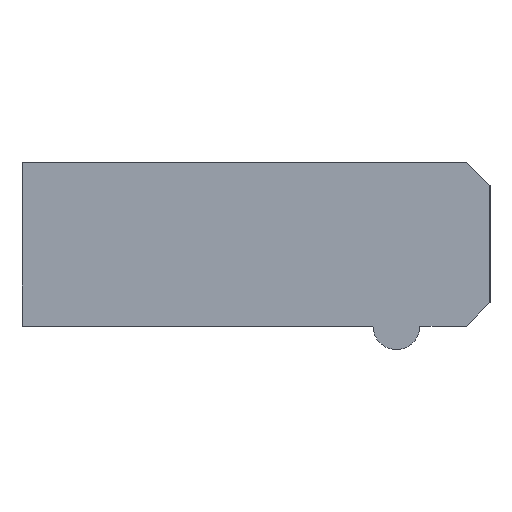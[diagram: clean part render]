
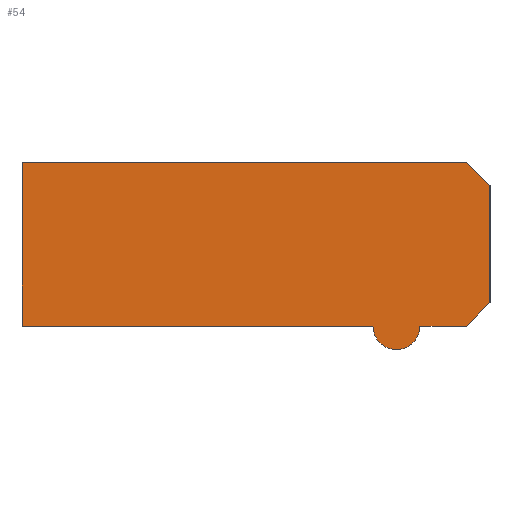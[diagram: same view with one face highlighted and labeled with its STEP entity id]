
A CAD part, left-side view. The second image highlights one B-rep face of the part: STEP entity #54.
In plain terms, the highlighted planar face has unit normal (-1, 0, 0).
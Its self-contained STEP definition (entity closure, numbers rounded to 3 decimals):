
#54 = ADVANCED_FACE( '', ( #108 ), #109, .F. );
#108 = FACE_OUTER_BOUND( '', #161, .T. );
#109 = PLANE( '', #162 );
#161 = EDGE_LOOP( '', ( #242, #243, #244, #245, #246, #247, #248, #249 ) );
#162 = AXIS2_PLACEMENT_3D( '', #250, #251, #252 );
#242 = ORIENTED_EDGE( '', *, *, #322, .F. );
#243 = ORIENTED_EDGE( '', *, *, #326, .F. );
#244 = ORIENTED_EDGE( '', *, *, #318, .F. );
#245 = ORIENTED_EDGE( '', *, *, #314, .F. );
#246 = ORIENTED_EDGE( '', *, *, #297, .F. );
#247 = ORIENTED_EDGE( '', *, *, #302, .F. );
#248 = ORIENTED_EDGE( '', *, *, #327, .F. );
#249 = ORIENTED_EDGE( '', *, *, #309, .F. );
#250 = CARTESIAN_POINT( '', ( -6., -16., -3.5 ) );
#251 = DIRECTION( '', ( 1., 0., 0. ) );
#252 = DIRECTION( '', ( 0., 0., -1. ) );
#297 = EDGE_CURVE( '', #340, #341, #342, .T. );
#302 = EDGE_CURVE( '', #349, #340, #350, .T. );
#309 = EDGE_CURVE( '', #360, #361, #362, .T. );
#314 = EDGE_CURVE( '', #341, #369, #370, .T. );
#318 = EDGE_CURVE( '', #369, #375, #376, .T. );
#322 = EDGE_CURVE( '', #381, #360, #382, .T. );
#326 = EDGE_CURVE( '', #375, #381, #387, .T. );
#327 = EDGE_CURVE( '', #361, #349, #388, .T. );
#340 = VERTEX_POINT( '', #402 );
#341 = VERTEX_POINT( '', #403 );
#342 = LINE( '', #404, #405 );
#349 = VERTEX_POINT( '', #415 );
#350 = LINE( '', #416, #417 );
#360 = VERTEX_POINT( '', #429 );
#361 = VERTEX_POINT( '', #430 );
#362 = LINE( '', #431, #432 );
#369 = VERTEX_POINT( '', #442 );
#370 = CIRCLE( '', #443, 1. );
#375 = VERTEX_POINT( '', #449 );
#376 = LINE( '', #450, #451 );
#381 = VERTEX_POINT( '', #458 );
#382 = LINE( '', #459, #460 );
#387 = LINE( '', #467, #468 );
#388 = LINE( '', #469, #470 );
#402 = CARTESIAN_POINT( '', ( -6., -19., -3.5 ) );
#403 = CARTESIAN_POINT( '', ( -6., -17., -3.5 ) );
#404 = CARTESIAN_POINT( '', ( -6., -19., -3.5 ) );
#405 = VECTOR( '', #485, 1000. );
#415 = CARTESIAN_POINT( '', ( -6., -20., -2.5 ) );
#416 = CARTESIAN_POINT( '', ( -6., -20., -2.5 ) );
#417 = VECTOR( '', #489, 1000. );
#429 = CARTESIAN_POINT( '', ( -6., -19., 3.5 ) );
#430 = CARTESIAN_POINT( '', ( -6., -20., 2.5 ) );
#431 = CARTESIAN_POINT( '', ( -6., -19., 3.5 ) );
#432 = VECTOR( '', #498, 1000. );
#442 = CARTESIAN_POINT( '', ( -6., -15., -3.5 ) );
#443 = AXIS2_PLACEMENT_3D( '', #502, #503, #504 );
#449 = CARTESIAN_POINT( '', ( -6., 0., -3.5 ) );
#450 = CARTESIAN_POINT( '', ( -6., -15., -3.5 ) );
#451 = VECTOR( '', #509, 1000. );
#458 = CARTESIAN_POINT( '', ( -6., 0., 3.5 ) );
#459 = CARTESIAN_POINT( '', ( -6., 0., 3.5 ) );
#460 = VECTOR( '', #512, 1000. );
#467 = CARTESIAN_POINT( '', ( -6., 0., -3.5 ) );
#468 = VECTOR( '', #515, 1000. );
#469 = CARTESIAN_POINT( '', ( -6., -20., 2.5 ) );
#470 = VECTOR( '', #516, 1000. );
#485 = DIRECTION( '', ( 0., 1., 0. ) );
#489 = DIRECTION( '', ( 0., 0.707, -0.707 ) );
#498 = DIRECTION( '', ( 0., -0.707, -0.707 ) );
#502 = CARTESIAN_POINT( '', ( -6., -16., -3.5 ) );
#503 = DIRECTION( '', ( 1., 0., 0. ) );
#504 = DIRECTION( '', ( 0., 0., -1. ) );
#509 = DIRECTION( '', ( 0., 1., 0. ) );
#512 = DIRECTION( '', ( 0., -1., 0. ) );
#515 = DIRECTION( '', ( 0., 0., 1. ) );
#516 = DIRECTION( '', ( 0., 0., -1. ) );
